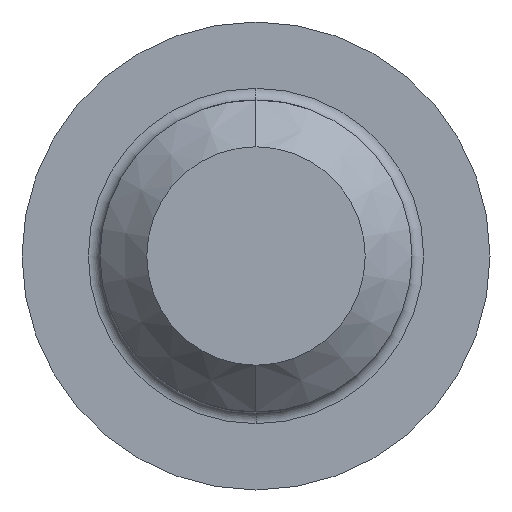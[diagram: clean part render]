
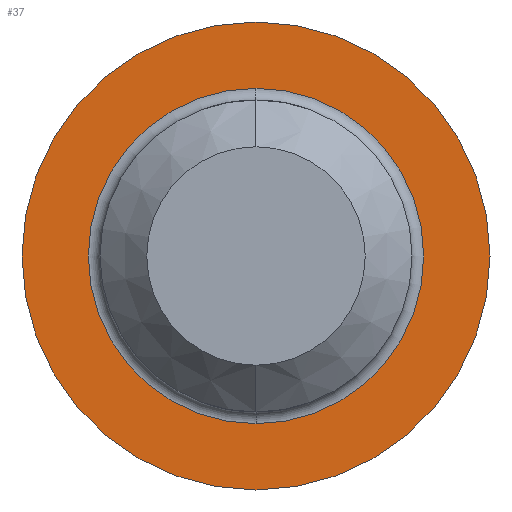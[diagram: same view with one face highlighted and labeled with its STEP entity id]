
A CAD part, left-side view. The second image highlights one B-rep face of the part: STEP entity #37.
In plain terms, the highlighted planar face has unit normal (-1, 0, 0).
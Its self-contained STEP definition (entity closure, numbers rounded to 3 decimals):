
#26 = ORIENTED_EDGE ( 'NONE', *, *, #59, .T. ) ;
#29 = EDGE_LOOP ( 'NONE', ( #26, #34 ) ) ;
#32 = EDGE_CURVE ( 'NONE', #81, #75, #87, .T. ) ;
#34 = ORIENTED_EDGE ( 'NONE', *, *, #189, .T. ) ;
#37 = ADVANCED_FACE ( 'NONE', ( #85, #110 ), #91, .F. ) ;
#58 = ORIENTED_EDGE ( 'NONE', *, *, #32, .T. ) ;
#59 = EDGE_CURVE ( 'NONE', #190, #191, #303, .T. ) ;
#60 = ORIENTED_EDGE ( 'NONE', *, *, #73, .T. ) ;
#73 = EDGE_CURVE ( 'NONE', #75, #81, #397, .T. ) ;
#75 = VERTEX_POINT ( 'NONE', #396 ) ;
#81 = VERTEX_POINT ( 'NONE', #375 ) ;
#85 = FACE_BOUND ( 'NONE', #29, .T. ) ;
#87 = CIRCLE ( 'NONE', #109, 6. ) ;
#91 = PLANE ( 'NONE',  #105 ) ;
#102 = DIRECTION ( 'NONE',  ( 0., 0., -1. ) ) ;
#103 = DIRECTION ( 'NONE',  ( 1., 0., 0. ) ) ;
#104 = CARTESIAN_POINT ( 'NONE',  ( 0., 6., 0. ) ) ;
#105 = AXIS2_PLACEMENT_3D ( 'NONE', #104, #103, #102 ) ;
#107 = DIRECTION ( 'NONE',  ( 0., 0., 1. ) ) ;
#108 = DIRECTION ( 'NONE',  ( -1., 0., 0. ) ) ;
#109 = AXIS2_PLACEMENT_3D ( 'NONE', #195, #108, #107 ) ;
#110 = FACE_OUTER_BOUND ( 'NONE', #163, .T. ) ;
#163 = EDGE_LOOP ( 'NONE', ( #60, #58 ) ) ;
#189 = EDGE_CURVE ( 'NONE', #191, #190, #513, .T. ) ;
#190 = VERTEX_POINT ( 'NONE', #488 ) ;
#191 = VERTEX_POINT ( 'NONE', #511 ) ;
#195 = CARTESIAN_POINT ( 'NONE',  ( 0., 0., 0. ) ) ;
#298 = CARTESIAN_POINT ( 'NONE',  ( 0., 0., 0. ) ) ;
#302 = CARTESIAN_POINT ( 'NONE',  ( 0., 0., 0. ) ) ;
#303 = CIRCLE ( 'NONE', #369, 4.3 ) ;
#367 = DIRECTION ( 'NONE',  ( 0., 0., -1. ) ) ;
#368 = DIRECTION ( 'NONE',  ( 1., 0., 0. ) ) ;
#369 = AXIS2_PLACEMENT_3D ( 'NONE', #302, #368, #367 ) ;
#375 = CARTESIAN_POINT ( 'NONE',  ( 0., 0., -6. ) ) ;
#392 = DIRECTION ( 'NONE',  ( 0., 0., 1. ) ) ;
#393 = DIRECTION ( 'NONE',  ( -1., 0., 0. ) ) ;
#396 = CARTESIAN_POINT ( 'NONE',  ( 0., 0., 6. ) ) ;
#397 = CIRCLE ( 'NONE', #400, 6. ) ;
#400 = AXIS2_PLACEMENT_3D ( 'NONE', #298, #393, #392 ) ;
#482 = DIRECTION ( 'NONE',  ( 0., 0., -1. ) ) ;
#483 = DIRECTION ( 'NONE',  ( 1., 0., 0. ) ) ;
#488 = CARTESIAN_POINT ( 'NONE',  ( 0., 0., -4.3 ) ) ;
#506 = AXIS2_PLACEMENT_3D ( 'NONE', #508, #483, #482 ) ;
#508 = CARTESIAN_POINT ( 'NONE',  ( 0., 0., 0. ) ) ;
#511 = CARTESIAN_POINT ( 'NONE',  ( 0., 0., 4.3 ) ) ;
#513 = CIRCLE ( 'NONE', #506, 4.3 ) ;
